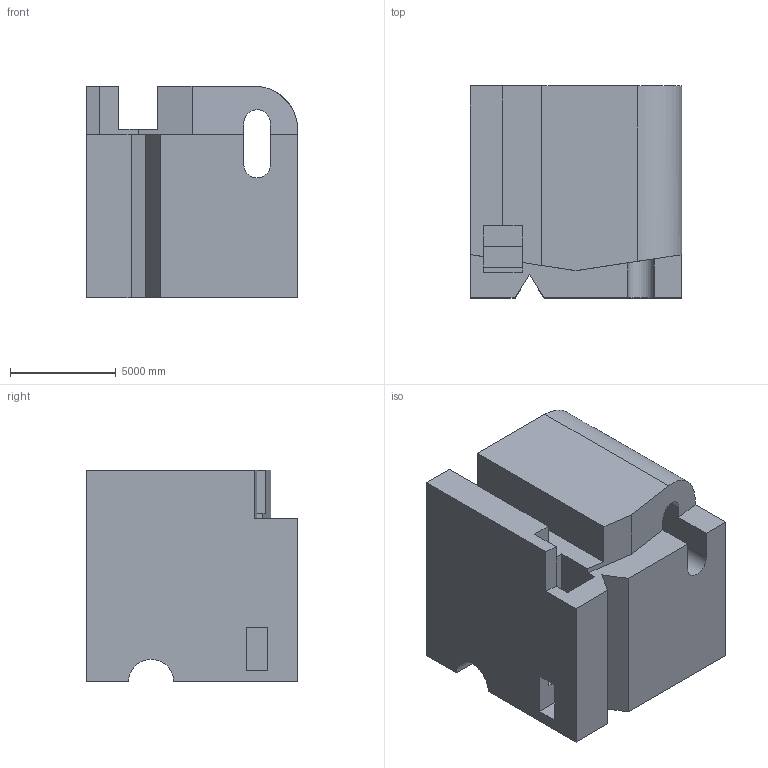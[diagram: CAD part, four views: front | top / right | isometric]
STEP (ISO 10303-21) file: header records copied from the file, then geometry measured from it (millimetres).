
FILE_DESCRIPTION (( 'STEP AP203' ), '1' );
FILE_NAME ('818.STEP', '2022-07-29T13:26:32', ( 'user' ), ( '' ), 'SwSTEP 2.0', 'SolidWorks 2021', '' );
FILE_SCHEMA (( 'CONFIG_CONTROL_DESIGN' ));
Length unit declared in the file: centimetre
Products named in the file (1): 818
Bounding box: 10000 x 10000 x 10000 mm (x, y, z)
Volume: 818940981877.4 mm3; surface area: 789157041.9 mm2
Topology: 1 solids, 1 shells, 44 faces, 129 edges, 86 vertices
Faces by surface type: plane 38, cylinder 6
Entity records: 1527 total; most frequent: CARTESIAN_POINT 269, ORIENTED_EDGE 258, DIRECTION 225, EDGE_CURVE 129, VECTOR 117, LINE 117, VERTEX_POINT 86, AXIS2_PLACEMENT_3D 54
